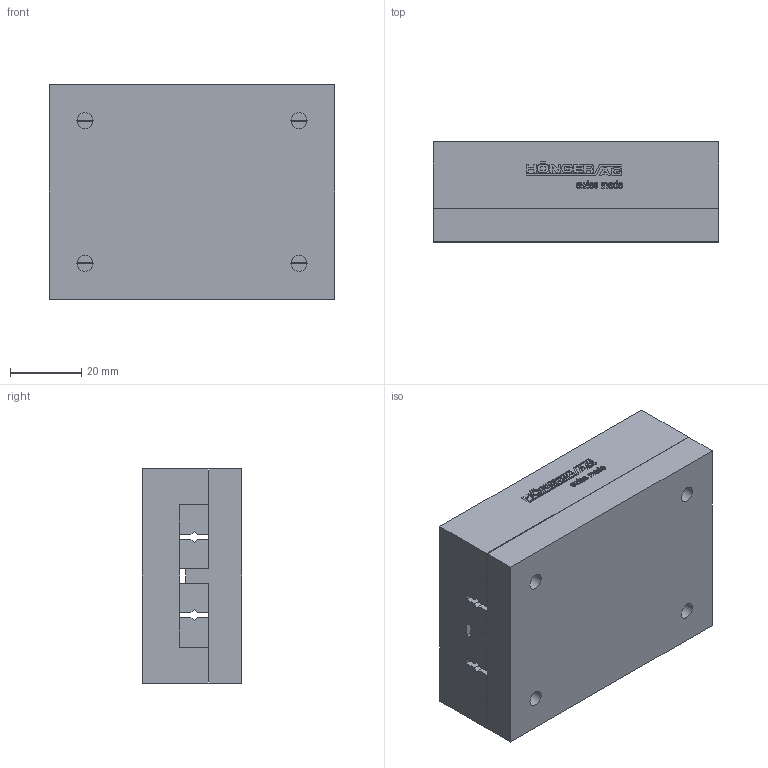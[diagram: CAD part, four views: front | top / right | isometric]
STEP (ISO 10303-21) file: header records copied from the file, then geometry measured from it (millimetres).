
FILE_DESCRIPTION(/* description */ ('STEP AP214'),/* implementation_level */ '2;1');
FILE_NAME(/* name */ 'NK 3-80-B(0)',/* time_stamp */ '2025-04-22T17:49:05+02:00',/* author */ ('License CC BY-ND 4.0'),/* organization */ ('CADENAS'),/* preprocessor_version */ 'ST-DEVELOPER v19.3',/* originating_system */ 'PARTsolutions',/* authorisation */ ' ');
FILE_SCHEMA (('AUTOMOTIVE_DESIGN {1 0 10303 214 3 1 1}'));
Length unit declared in the file: millimetre
Products named in the file (3): NK 3-80-B(0); NK 3-80-B_1; NK 3-80-B_2
Assembly tree (2 placements, depth 2):
  NK 3-80-B(0)
    NK 3-80-B_1
    NK 3-80-B_2
Bounding box: 80 x 28 x 60 mm (x, y, z)
Volume: 129750.5 mm3; surface area: 35794.6 mm2
Topology: 2 solids, 2 shells, 577 faces, 1626 edges, 1080 vertices
Faces by surface type: cylinder 304, plane 265, cone 8
Full cylindrical faces by diameter (mm): 3.242 x4, 4.5 x4, 7.5 x4
Entity records: 18851 total; most frequent: DIRECTION 3386, CARTESIAN_POINT 3286, ORIENTED_EDGE 3212, EDGE_CURVE 1606, AXIS2_PLACEMENT_3D 1208, VERTEX_POINT 1076, LINE 970, VECTOR 970
